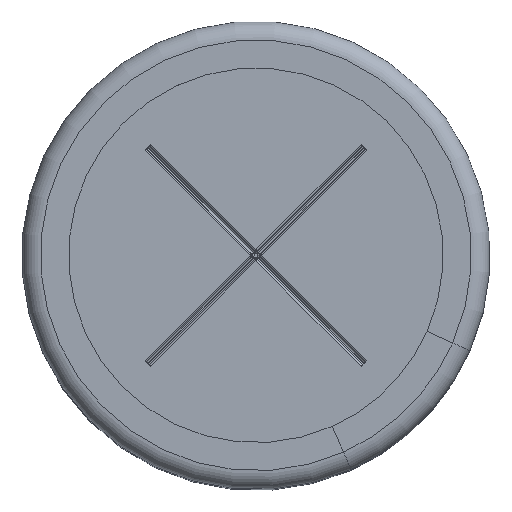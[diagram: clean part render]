
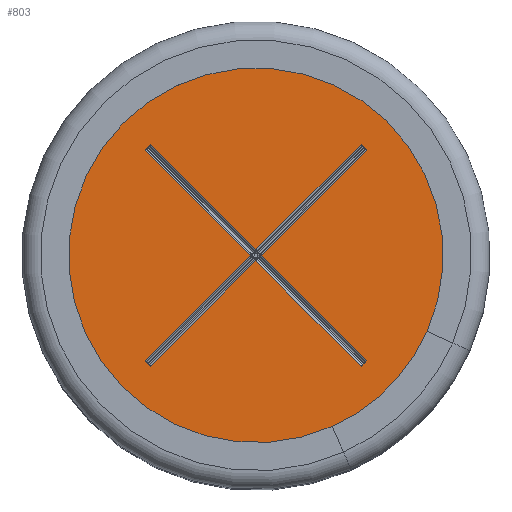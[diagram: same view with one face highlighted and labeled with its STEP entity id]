
A CAD part, top view. The second image highlights one B-rep face of the part: STEP entity #803.
In plain terms, the highlighted planar face has unit normal (0, 0, 1).
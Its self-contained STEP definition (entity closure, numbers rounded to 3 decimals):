
#176=FACE_BOUND('',#1284,.T.);
#177=FACE_BOUND('',#1285,.T.);
#687=PLANE('',#4047);
#803=ADVANCED_FACE('',(#176,#177),#687,.T.);
#1284=EDGE_LOOP('',(#2130));
#1285=EDGE_LOOP('',(#2131,#2132,#2133,#2134,#2135,#2136,#2137,#2138,#2139,
#2140,#2141,#2142));
#1517=LINE('',#5710,#1771);
#1518=LINE('',#5713,#1772);
#1519=LINE('',#5715,#1773);
#1520=LINE('',#5717,#1774);
#1521=LINE('',#5719,#1775);
#1522=LINE('',#5721,#1776);
#1523=LINE('',#5723,#1777);
#1524=LINE('',#5725,#1778);
#1525=LINE('',#5727,#1779);
#1526=LINE('',#5729,#1780);
#1527=LINE('',#5731,#1781);
#1528=LINE('',#5733,#1782);
#1771=VECTOR('',#4590,1.);
#1772=VECTOR('',#4591,1.);
#1773=VECTOR('',#4592,1.);
#1774=VECTOR('',#4593,1.);
#1775=VECTOR('',#4594,1.);
#1776=VECTOR('',#4595,1.);
#1777=VECTOR('',#4596,1.);
#1778=VECTOR('',#4597,1.);
#1779=VECTOR('',#4598,1.);
#1780=VECTOR('',#4599,1.);
#1781=VECTOR('',#4600,1.);
#1782=VECTOR('',#4601,1.);
#2130=ORIENTED_EDGE('',*,*,#3368,.F.);
#2131=ORIENTED_EDGE('',*,*,#3369,.T.);
#2132=ORIENTED_EDGE('',*,*,#3370,.T.);
#2133=ORIENTED_EDGE('',*,*,#3371,.T.);
#2134=ORIENTED_EDGE('',*,*,#3372,.F.);
#2135=ORIENTED_EDGE('',*,*,#3373,.T.);
#2136=ORIENTED_EDGE('',*,*,#3374,.T.);
#2137=ORIENTED_EDGE('',*,*,#3375,.F.);
#2138=ORIENTED_EDGE('',*,*,#3376,.T.);
#2139=ORIENTED_EDGE('',*,*,#3377,.T.);
#2140=ORIENTED_EDGE('',*,*,#3378,.T.);
#2141=ORIENTED_EDGE('',*,*,#3379,.T.);
#2142=ORIENTED_EDGE('',*,*,#3380,.T.);
#3038=VERTEX_POINT('',#5709);
#3039=VERTEX_POINT('',#5711);
#3040=VERTEX_POINT('',#5712);
#3041=VERTEX_POINT('',#5714);
#3042=VERTEX_POINT('',#5716);
#3043=VERTEX_POINT('',#5718);
#3044=VERTEX_POINT('',#5720);
#3045=VERTEX_POINT('',#5722);
#3046=VERTEX_POINT('',#5724);
#3047=VERTEX_POINT('',#5726);
#3048=VERTEX_POINT('',#5728);
#3049=VERTEX_POINT('',#5730);
#3050=VERTEX_POINT('',#5732);
#3368=EDGE_CURVE('',#3038,#3038,#3826,.T.);
#3369=EDGE_CURVE('',#3039,#3040,#1517,.T.);
#3370=EDGE_CURVE('',#3040,#3041,#1518,.T.);
#3371=EDGE_CURVE('',#3041,#3042,#1519,.T.);
#3372=EDGE_CURVE('',#3043,#3042,#1520,.T.);
#3373=EDGE_CURVE('',#3043,#3044,#1521,.T.);
#3374=EDGE_CURVE('',#3044,#3045,#1522,.T.);
#3375=EDGE_CURVE('',#3046,#3045,#1523,.T.);
#3376=EDGE_CURVE('',#3046,#3047,#1524,.T.);
#3377=EDGE_CURVE('',#3047,#3048,#1525,.T.);
#3378=EDGE_CURVE('',#3048,#3049,#1526,.T.);
#3379=EDGE_CURVE('',#3049,#3050,#1527,.T.);
#3380=EDGE_CURVE('',#3050,#3039,#1528,.T.);
#3826=CIRCLE('',#4046,11.5);
#4046=AXIS2_PLACEMENT_3D('',#5708,#4588,#4589);
#4047=AXIS2_PLACEMENT_3D('',#5734,#4602,#4603);
#4588=DIRECTION('',(0.,0.,-1.));
#4589=DIRECTION('',(-1.,0.,0.));
#4590=DIRECTION('',(0.707,-0.707,0.));
#4591=DIRECTION('',(-0.707,-0.707,0.));
#4592=DIRECTION('',(0.707,-0.707,0.));
#4593=DIRECTION('',(0.707,0.707,0.));
#4594=DIRECTION('',(-0.707,0.707,0.));
#4595=DIRECTION('',(-0.707,-0.707,0.));
#4596=DIRECTION('',(0.707,-0.707,0.));
#4597=DIRECTION('',(0.707,0.707,0.));
#4598=DIRECTION('',(-0.707,0.707,0.));
#4599=DIRECTION('',(0.707,0.707,0.));
#4600=DIRECTION('',(0.707,-0.707,0.));
#4601=DIRECTION('',(0.707,0.707,0.));
#4602=DIRECTION('',(0.,0.,1.));
#4603=DIRECTION('',(1.,0.,0.));
#5708=CARTESIAN_POINT('',(0.,0.,34.8));
#5709=CARTESIAN_POINT('',(-11.5,0.,34.8));
#5710=CARTESIAN_POINT('',(5.657,5.869,34.8));
#5711=CARTESIAN_POINT('',(5.613,5.913,34.8));
#5712=CARTESIAN_POINT('',(5.913,5.613,34.8));
#5713=CARTESIAN_POINT('',(-5.6,-5.9,34.8));
#5714=CARTESIAN_POINT('',(0.3,0.,34.8));
#5715=CARTESIAN_POINT('',(-5.6,5.9,34.8));
#5716=CARTESIAN_POINT('',(5.913,-5.613,34.8));
#5717=CARTESIAN_POINT('',(5.869,-5.657,34.8));
#5718=CARTESIAN_POINT('',(5.613,-5.913,34.8));
#5719=CARTESIAN_POINT('',(-5.9,5.6,34.8));
#5720=CARTESIAN_POINT('',(0.,-0.3,34.8));
#5721=CARTESIAN_POINT('',(-5.6,-5.9,34.8));
#5722=CARTESIAN_POINT('',(-5.613,-5.913,34.8));
#5723=CARTESIAN_POINT('',(-5.869,-5.657,34.8));
#5724=CARTESIAN_POINT('',(-5.913,-5.613,34.8));
#5725=CARTESIAN_POINT('',(-5.9,-5.6,34.8));
#5726=CARTESIAN_POINT('',(-0.3,0.,34.8));
#5727=CARTESIAN_POINT('',(-5.9,5.6,34.8));
#5728=CARTESIAN_POINT('',(-5.913,5.613,34.8));
#5729=CARTESIAN_POINT('',(-5.657,5.869,34.8));
#5730=CARTESIAN_POINT('',(-5.613,5.913,34.8));
#5731=CARTESIAN_POINT('',(-5.6,5.9,34.8));
#5732=CARTESIAN_POINT('',(0.,0.3,34.8));
#5733=CARTESIAN_POINT('',(-5.9,-5.6,34.8));
#5734=CARTESIAN_POINT('',(-11.5,0.,34.8));
